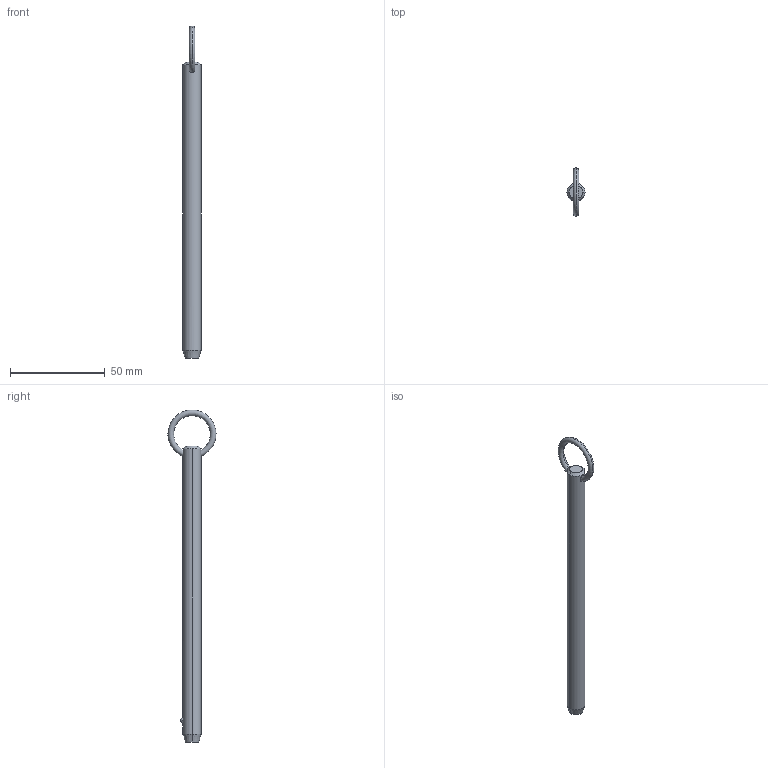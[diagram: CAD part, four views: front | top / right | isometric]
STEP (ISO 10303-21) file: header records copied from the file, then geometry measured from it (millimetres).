
FILE_DESCRIPTION (( 'STEP AP203' ), '1' );
FILE_NAME ('P1250.037-540.step', '2019-07-29T20:13:28', ( '' ), ( '' ), 'SwSTEP 2.0', 'SolidWorks 2017', '' );
FILE_SCHEMA (( 'CONFIG_CONTROL_DESIGN' ));
Length unit declared in the file: millimetre
Products named in the file (1): P1250.037-540
Bounding box: 9.52 x 25.39 x 175.3 mm (x, y, z)
Volume: 11473.2 mm3; surface area: 5315.3 mm2
Topology: 1 solids, 1 shells, 12 faces, 28 edges, 17 vertices
Faces by surface type: cone 4, torus 2, sphere 2, cylinder 2, plane 2
Entity records: 523 total; most frequent: CARTESIAN_POINT 190, DIRECTION 56, ORIENTED_EDGE 48, AXIS2_PLACEMENT_3D 25, EDGE_CURVE 24, VERTEX_POINT 15, EDGE_LOOP 15, FACE_OUTER_BOUND 12
